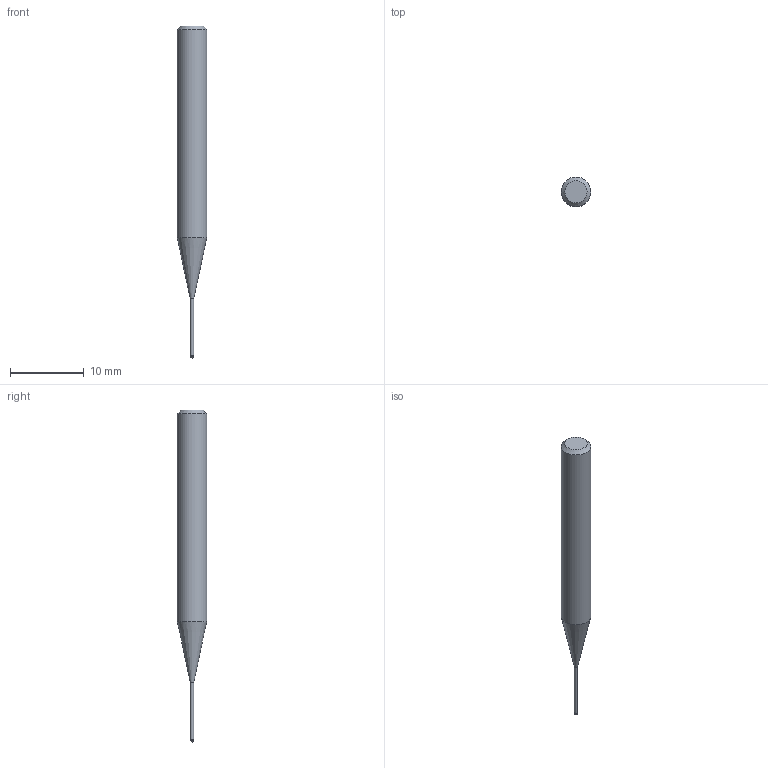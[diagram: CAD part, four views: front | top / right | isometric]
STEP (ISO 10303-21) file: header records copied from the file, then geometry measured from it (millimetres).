
FILE_DESCRIPTION((''),'2;1');
FILE_NAME('C:\Users\nsx150\AppData\Local\Temp\Mastercam 2021\3SYKECWX22\TEMP.step','2021-04-22T10:00:32',(''),(''),'STEP Write','Mastercam 2021 ... CNC Software, Inc.','');
FILE_SCHEMA(('AUTOMOTIVE_DESIGN'));
Length unit declared in the file: millimetre
Products named in the file (1): None
Bounding box: 4 x 4 x 45 mm (x, y, z)
Volume: 399.6 mm3; surface area: 440.5 mm2
Topology: 2 solids, 2 shells, 9 faces, 14 edges, 8 vertices
Faces by surface type: plane 3, cylinder 3, cone 2, sphere 1
Full cylindrical faces by diameter (mm): 0.46 x1, 0.5 x1, 4 x1
Entity records: 211 total; most frequent: DIRECTION 36, CARTESIAN_POINT 25, AXIS2_PLACEMENT_3D 18, ORIENTED_EDGE 14, EDGE_LOOP 14, STYLED_ITEM 12, ADVANCED_FACE 9, FACE_BOUND 8
